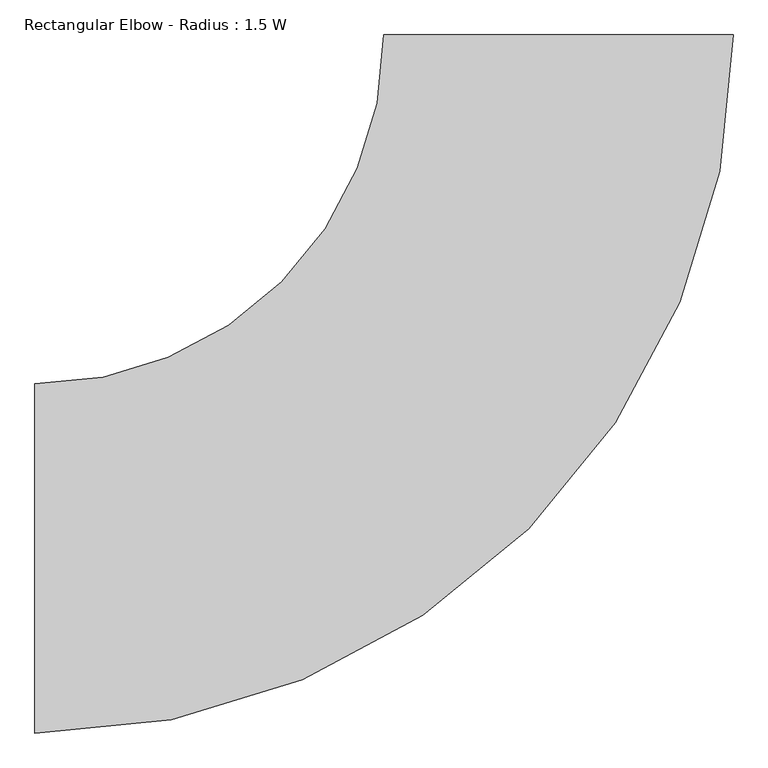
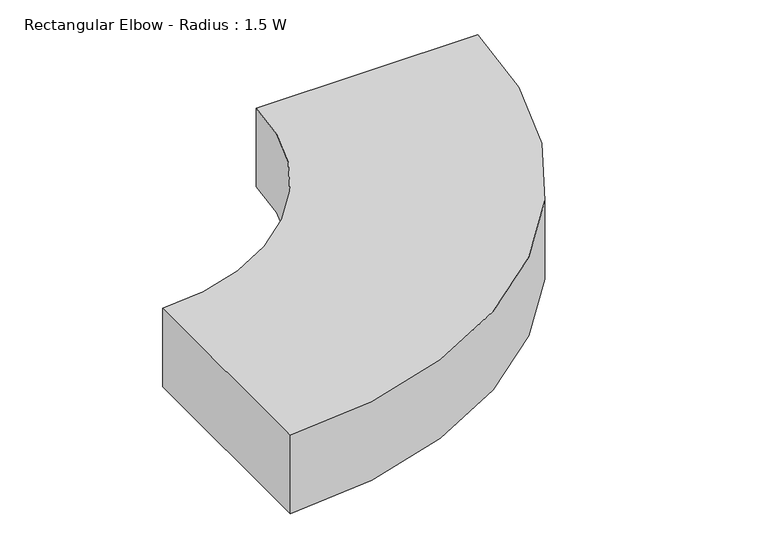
"""IFC4 building model written with IfcOpenShell, lengths in millimetres: duct fitting geometry, Rectangular Elbow - Radius : 1.5 W."""

from ifc_helpers import new_model, si_unit, point, frame, frame_2d, origin, place, context, project, spatial, polyline, circle_curve, trimmed, segment, composite_curve, outline, extrude, source, transform, mapped, element, save


def rectangular_elbow_radius_1_5_w_7a37d99a(model_context):
    return source(origin(), model_context, "Body", "SweptSolid", [
        extrude(outline(composite_curve([segment(trimmed(circle_curve(frame_2d((-1200.0, 1200.0)), 1600.0), [point((400.0, 1200.0))], [point((-1200.0, -400.0))], False, "CARTESIAN"), True, "CONTINUOUS"), segment(polyline([(-1200.0, -400.0), (-1200.0, 400.0)]), True, "CONTINUOUS"), segment(trimmed(circle_curve(frame_2d((-1200.0, 1200.0)), 800.0), [point((-1200.0, 400.0))], [point((-400.0, 1200.0))], True, "CARTESIAN"), True, "CONTINUOUS"), segment(polyline([(-400.0, 1200.0), (400.0, 1200.0)]), True, "CONTINUOUS")], self_intersect=False)), frame((0.0, 0.0, -150.0), z_axis=(0.0, 0.0, 1.0), x_axis=(1.0, 0.0, 0.0)), (0.0, 0.0, 1.0), 300.0),
    ])


if __name__ == "__main__":
    model = new_model("IFC4")
    model_context = context("Model", 3, world=origin())
    ifc_project = project(units=[si_unit("LENGTHUNIT", "METRE", prefix="MILLI")], contexts=[model_context])
    site = spatial("IfcSite", under=ifc_project)
    building = spatial("IfcBuilding", under=site)
    placement = place(None, origin())
    rectangular_elbow_radius_1_5_w_shape = rectangular_elbow_radius_1_5_w_7a37d99a(model_context)
    element("IfcDuctFitting", 1, ObjectType="Rectangular Elbow - Radius : 1.5 W", at=placement, inside=building, context=model_context, shape_type="MappedRepresentation", body=[
        mapped(rectangular_elbow_radius_1_5_w_shape, transform((0.0, 0.0, 0.0), x_axis=(1.0, 0.0, 0.0), y_axis=(0.0, 1.0, 0.0), z_axis=(0.0, 0.0, 1.0))),
    ])
    save(model, "model.ifc")
